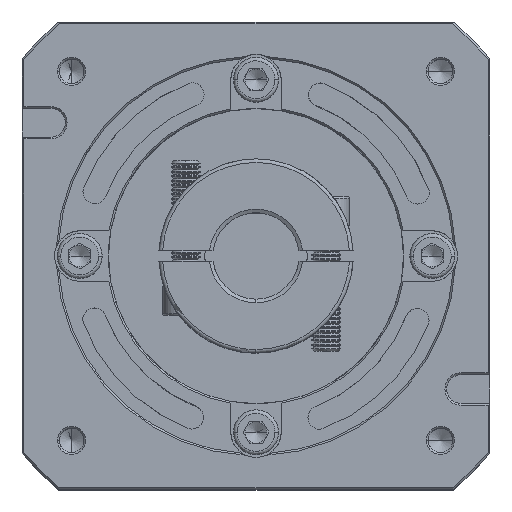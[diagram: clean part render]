
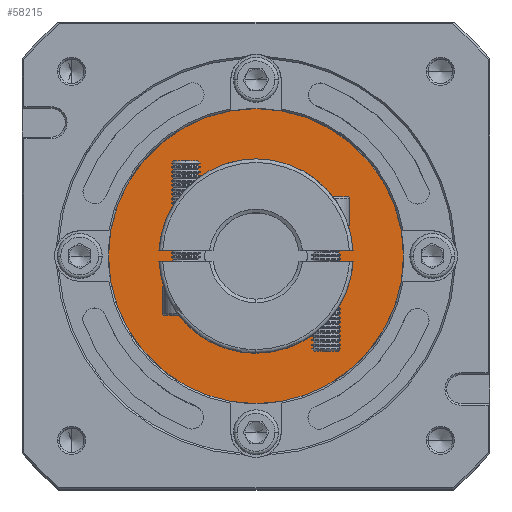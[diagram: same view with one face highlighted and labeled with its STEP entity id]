
A CAD part, top view. The second image highlights one B-rep face of the part: STEP entity #58215.
In plain terms, the highlighted planar face has unit normal (0, 0, 1).
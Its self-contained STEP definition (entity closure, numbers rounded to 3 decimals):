
#2193 = VERTEX_POINT ( 'NONE', #59740 ) ;
#2384 = CARTESIAN_POINT ( 'NONE',  ( 66.738, 166.131, 9.981 ) ) ;
#3068 = EDGE_CURVE ( 'NONE', #2193, #81083, #70134, .T. ) ;
#4160 = EDGE_CURVE ( 'NONE', #81083, #2193, #108619, .T. ) ;
#6031 = DIRECTION ( 'NONE',  ( 0., 0., -1. ) ) ;
#6729 = DIRECTION ( 'NONE',  ( 1., 0., 0. ) ) ;
#11188 = DIRECTION ( 'NONE',  ( 1., 0., 0. ) ) ;
#14780 = DIRECTION ( 'NONE',  ( 1., 0., 0. ) ) ;
#16674 = EDGE_CURVE ( 'NONE', #83198, #107084, #35716, .T. ) ;
#18124 = AXIS2_PLACEMENT_3D ( 'NONE', #48814, #6031, #93871 ) ;
#25658 = ORIENTED_EDGE ( 'NONE', *, *, #3068, .T. ) ;
#35716 = CIRCLE ( 'NONE', #54919, 20. ) ;
#40981 = CARTESIAN_POINT ( 'NONE',  ( 66.738, 166.131, 9.981 ) ) ;
#42795 = EDGE_CURVE ( 'NONE', #107084, #83198, #56761, .T. ) ;
#48814 = CARTESIAN_POINT ( 'NONE',  ( 66.738, 166.131, 9.981 ) ) ;
#49587 = AXIS2_PLACEMENT_3D ( 'NONE', #111781, #70951, #6729 ) ;
#50246 = CARTESIAN_POINT ( 'NONE',  ( 66.738, 166.131, 9.981 ) ) ;
#50423 = CARTESIAN_POINT ( 'NONE',  ( 46.738, 166.131, 9.981 ) ) ;
#54919 = AXIS2_PLACEMENT_3D ( 'NONE', #40981, #75367, #66960 ) ;
#56761 = CIRCLE ( 'NONE', #18124, 20. ) ;
#57507 = DIRECTION ( 'NONE',  ( 0., 0., 1. ) ) ;
#58215 = ADVANCED_FACE ( 'NONE', ( #83166, #92663 ), #59058, .T. ) ;
#59058 = PLANE ( 'NONE',  #81458 ) ;
#59740 = CARTESIAN_POINT ( 'NONE',  ( 107.738, 166.131, 9.981 ) ) ;
#63524 = DIRECTION ( 'NONE',  ( 0., 0., 1. ) ) ;
#63935 = ORIENTED_EDGE ( 'NONE', *, *, #42795, .T. ) ;
#65292 = EDGE_LOOP ( 'NONE', ( #25658, #104815 ) ) ;
#66960 = DIRECTION ( 'NONE',  ( 1., 0., 0. ) ) ;
#70134 = CIRCLE ( 'NONE', #49587, 41. ) ;
#70951 = DIRECTION ( 'NONE',  ( 0., 0., 1. ) ) ;
#75367 = DIRECTION ( 'NONE',  ( 0., 0., -1. ) ) ;
#77171 = ORIENTED_EDGE ( 'NONE', *, *, #16674, .T. ) ;
#77499 = EDGE_LOOP ( 'NONE', ( #63935, #77171 ) ) ;
#81083 = VERTEX_POINT ( 'NONE', #95232 ) ;
#81458 = AXIS2_PLACEMENT_3D ( 'NONE', #50246, #57507, #14780 ) ;
#83166 = FACE_OUTER_BOUND ( 'NONE', #65292, .T. ) ;
#83198 = VERTEX_POINT ( 'NONE', #50423 ) ;
#88879 = CARTESIAN_POINT ( 'NONE',  ( 86.738, 166.131, 9.981 ) ) ;
#89242 = AXIS2_PLACEMENT_3D ( 'NONE', #2384, #63524, #11188 ) ;
#92663 = FACE_BOUND ( 'NONE', #77499, .T. ) ;
#93871 = DIRECTION ( 'NONE',  ( 1., 0., 0. ) ) ;
#95232 = CARTESIAN_POINT ( 'NONE',  ( 25.738, 166.131, 9.981 ) ) ;
#104815 = ORIENTED_EDGE ( 'NONE', *, *, #4160, .T. ) ;
#107084 = VERTEX_POINT ( 'NONE', #88879 ) ;
#108619 = CIRCLE ( 'NONE', #89242, 41. ) ;
#111781 = CARTESIAN_POINT ( 'NONE',  ( 66.738, 166.131, 9.981 ) ) ;
